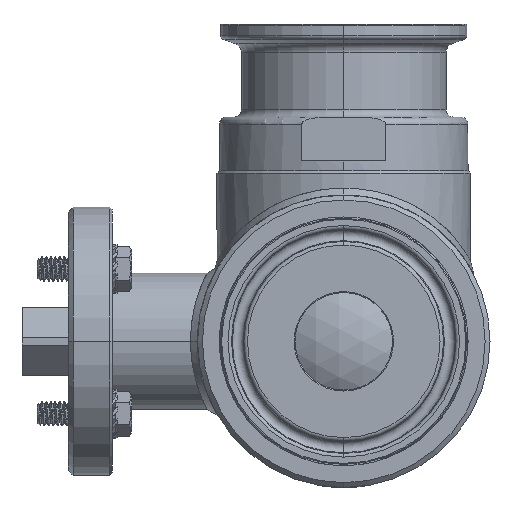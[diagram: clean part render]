
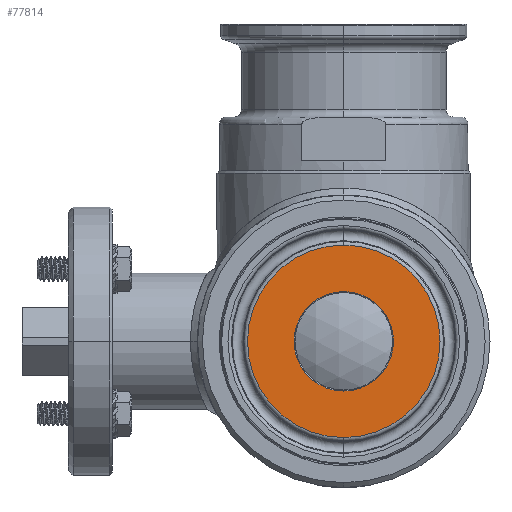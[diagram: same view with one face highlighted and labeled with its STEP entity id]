
A CAD part, left-side view. The second image highlights one B-rep face of the part: STEP entity #77814.
In plain terms, the highlighted planar face has unit normal (-1, 0, 0).
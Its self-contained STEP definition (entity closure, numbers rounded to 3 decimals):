
#76937=CARTESIAN_POINT('',(-65.,0.,0.));
#76938=DIRECTION('',(1.,0.,0.));
#76939=DIRECTION('',(0.,0.,-1.));
#76940=AXIS2_PLACEMENT_3D('',#76937,#76938,#76939);
#76945=CARTESIAN_POINT('',(-65.,0.,0.));
#76946=DIRECTION('',(1.,0.,0.));
#76947=DIRECTION('',(0.,0.,1.));
#76948=AXIS2_PLACEMENT_3D('',#76945,#76946,#76947);
#76953=CARTESIAN_POINT('',(-65.,0.,0.));
#76954=DIRECTION('',(1.,0.,0.));
#76955=DIRECTION('',(0.,0.,1.));
#76956=AXIS2_PLACEMENT_3D('',#76953,#76954,#76955);
#76961=CARTESIAN_POINT('',(-65.,0.,0.));
#76962=DIRECTION('',(1.,0.,0.));
#76963=DIRECTION('',(0.,0.,-1.));
#76964=AXIS2_PLACEMENT_3D('',#76961,#76962,#76963);
#77755=CARTESIAN_POINT('',(-65.,0.,-19.748));
#77756=CARTESIAN_POINT('',(-65.,0.,19.748));
#77757=VERTEX_POINT('',#77755);
#77758=VERTEX_POINT('',#77756);
#77759=CARTESIAN_POINT('',(-65.,0.,10.2));
#77760=CARTESIAN_POINT('',(-65.,0.,-10.2));
#77761=VERTEX_POINT('',#77759);
#77762=VERTEX_POINT('',#77760);
#77798=CARTESIAN_POINT('',(-65.,0.,0.));
#77799=DIRECTION('',(-1.,0.,0.));
#77800=DIRECTION('',(0.,0.,1.));
#77801=AXIS2_PLACEMENT_3D('',#77798,#77799,#77800);
#77802=PLANE('',#77801);
#77804=ORIENTED_EDGE('',*,*,#77803,.T.);
#77806=ORIENTED_EDGE('',*,*,#77805,.T.);
#77807=EDGE_LOOP('',(#77804,#77806));
#77808=FACE_OUTER_BOUND('',#77807,.F.);
#77809=ORIENTED_EDGE('',*,*,#77788,.F.);
#77811=ORIENTED_EDGE('',*,*,#77810,.F.);
#77812=EDGE_LOOP('',(#77809,#77811));
#77813=FACE_BOUND('',#77812,.F.);
#77814=ADVANCED_FACE('',(#77808,#77813),#77802,.T.);
#76941=CIRCLE('',#76940,19.748);
#76949=CIRCLE('',#76948,19.748);
#76957=CIRCLE('',#76956,10.2);
#76965=CIRCLE('',#76964,10.2);
#77788=EDGE_CURVE('',#77761,#77762,#76957,.T.);
#77803=EDGE_CURVE('',#77757,#77758,#76941,.T.);
#77805=EDGE_CURVE('',#77758,#77757,#76949,.T.);
#77810=EDGE_CURVE('',#77762,#77761,#76965,.T.);
